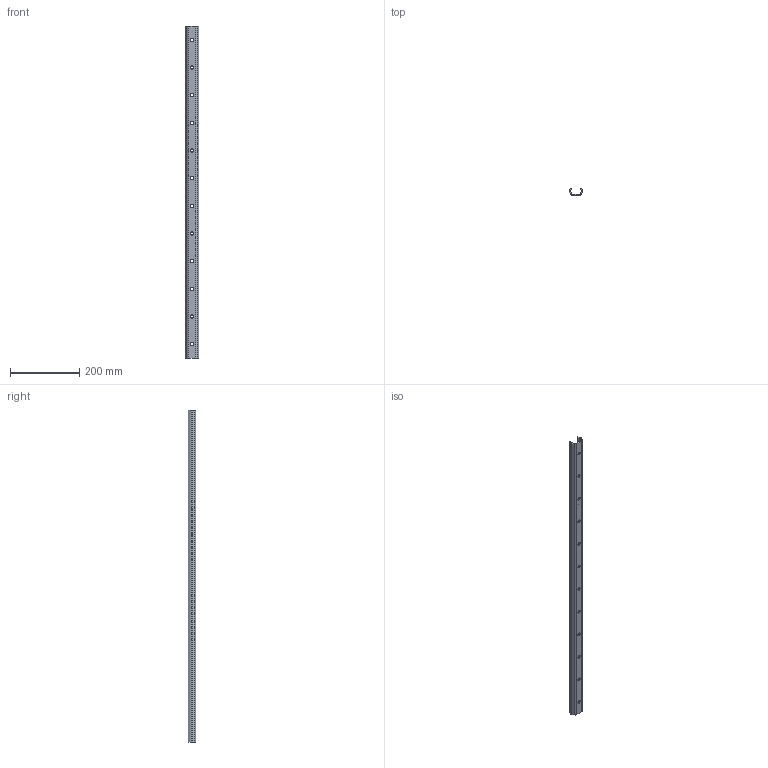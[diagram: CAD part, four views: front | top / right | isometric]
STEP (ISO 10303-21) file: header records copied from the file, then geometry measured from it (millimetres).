
FILE_DESCRIPTION(('STEP AP214'),'1');
FILE_NAME('rail_tex40-960.stp','2019-03-08T08:32:58',('TraceParts'),('TraceParts S.A.'),'Spatial InterOp 3D',' ',' ');
FILE_SCHEMA(('automotive_design'));
Length unit declared in the file: millimetre
Products named in the file (1): rail_tex40-960
Bounding box: 39.53 x 21 x 960 mm (x, y, z)
Volume: 187700.1 mm3; surface area: 132464.1 mm2
Topology: 1 solids, 1 shells, 221 faces, 576 edges, 384 vertices
Faces by surface type: plane 152, cylinder 36, bspline 33
Entity records: 13613 total; most frequent: CARTESIAN_POINT 6483, ORIENTED_EDGE 1152, DIRECTION 960, EDGE_CURVE 576, LINE 438, VECTOR 438, VERTEX_POINT 384, EDGE_LOOP 272
